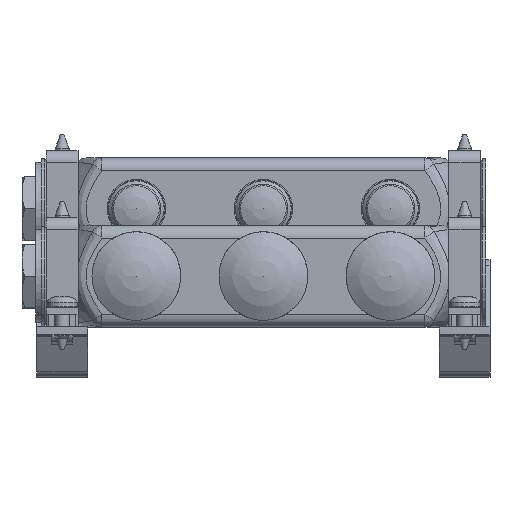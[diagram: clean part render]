
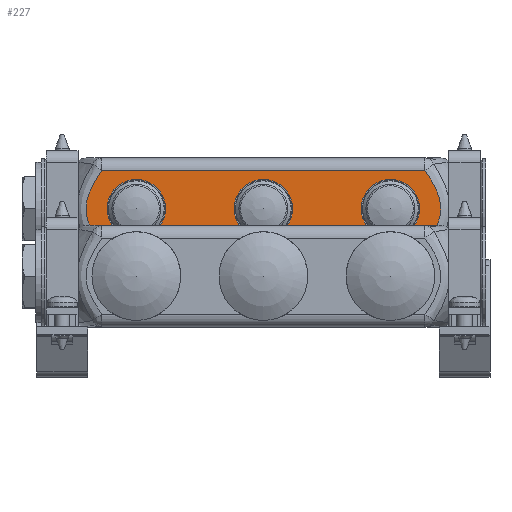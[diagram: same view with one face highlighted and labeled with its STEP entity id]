
A CAD part, top view. The second image highlights one B-rep face of the part: STEP entity #227.
In plain terms, the highlighted planar face has unit normal (0, 0, 1).
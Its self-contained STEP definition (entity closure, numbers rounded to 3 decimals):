
#227=ADVANCED_FACE('',(#3162,#3164,#3166,#3168),#3170,.T.);
#3162=FACE_BOUND('',#3163,.T.);
#3163=EDGE_LOOP('',(#11117,#11118,#11119,#11120));
#3164=FACE_BOUND('',#3165,.T.);
#3165=EDGE_LOOP('',(#11121));
#3166=FACE_BOUND('',#3167,.T.);
#3167=EDGE_LOOP('',(#11122));
#3168=FACE_BOUND('',#3169,.T.);
#3169=EDGE_LOOP('',(#11123));
#3170=PLANE('',#3171);
#3171=AXIS2_PLACEMENT_3D('',#3172,#3173,#3174);
#3172=CARTESIAN_POINT('',(1.7,86.5,-219.65));
#3173=DIRECTION('',(0.,0.,1.));
#3174=DIRECTION('',(0.,-1.,0.));
#11117=ORIENTED_EDGE('',*,*,#15145,.T.);
#11118=ORIENTED_EDGE('',*,*,#15146,.F.);
#11119=ORIENTED_EDGE('',*,*,#14875,.T.);
#11120=ORIENTED_EDGE('',*,*,#15147,.T.);
#11121=ORIENTED_EDGE('',*,*,#15148,.F.);
#11122=ORIENTED_EDGE('',*,*,#15149,.F.);
#11123=ORIENTED_EDGE('',*,*,#15150,.F.);
#14875=EDGE_CURVE('',#17443,#17444,#17445,.T.);
#15145=EDGE_CURVE('',#17885,#17886,#17887,.T.);
#15146=EDGE_CURVE('',#17443,#17886,#17888,.T.);
#15147=EDGE_CURVE('',#17444,#17885,#17889,.T.);
#15148=EDGE_CURVE('',#17890,#17890,#17891,.T.);
#15149=EDGE_CURVE('',#17892,#17892,#17893,.T.);
#15150=EDGE_CURVE('',#17894,#17894,#17895,.T.);
#17443=VERTEX_POINT('',#25038);
#17444=VERTEX_POINT('',#25039);
#17445=B_SPLINE_CURVE_WITH_KNOTS('',3,
(#25040,#25041,#25042,#25043,#25044,#25045,#25046,#25047,#25048,#25049,#25050,#25051,
#25052,#25053,#25054,#25055,#25056,#25057,#25058,#25059,#25060,#25061,#25062,#25063),
.UNSPECIFIED.,.F.,.F.,
(4,1,1,1,1,1,1,1,1,1,1,1,1,1,1,1,1,1,1,1,1,4),
(0.,0.066,0.123,0.171,0.221,0.271,
0.322,0.369,0.413,0.45,0.485,
0.521,0.557,0.597,0.64,0.687,
0.738,0.789,0.841,0.891,0.945,
1.),
.UNSPECIFIED.);
#17885=VERTEX_POINT('',#26353);
#17886=VERTEX_POINT('',#26354);
#17887=B_SPLINE_CURVE_WITH_KNOTS('',3,
(#26355,#26356,#26357,#26358,#26359,#26360,#26361,#26362,#26363,#26364,#26365,#26366,
#26367,#26368,#26369,#26370,#26371,#26372,#26373,#26374,#26375,#26376,#26377,#26378),
.UNSPECIFIED.,.F.,.F.,
(4,1,1,1,1,1,1,1,1,1,1,1,1,1,1,1,1,1,1,1,1,4),
(0.,0.066,0.123,0.171,0.221,0.271,
0.322,0.369,0.413,0.45,0.485,
0.521,0.557,0.597,0.64,0.687,
0.738,0.789,0.841,0.891,0.945,
1.),
.UNSPECIFIED.);
#17888=LINE('',#26379,#26380);
#17889=LINE('',#26382,#26383);
#17890=VERTEX_POINT('',#26385);
#17891=CIRCLE('',#26386,11.5);
#17892=VERTEX_POINT('',#26390);
#17893=CIRCLE('',#26391,11.5);
#17894=VERTEX_POINT('',#26395);
#17895=CIRCLE('',#26396,11.5);
#25038=CARTESIAN_POINT('',(25.634,81.5,-219.65));
#25039=CARTESIAN_POINT('',(25.634,51.5,-219.65));
#25040=CARTESIAN_POINT('',(25.634,81.5,-219.65));
#25041=CARTESIAN_POINT('',(25.196,80.881,-219.65));
#25042=CARTESIAN_POINT('',(24.401,79.72,-219.65));
#25043=CARTESIAN_POINT('',(23.362,78.086,-219.65));
#25044=CARTESIAN_POINT('',(22.485,76.588,-219.65));
#25045=CARTESIAN_POINT('',(21.717,75.142,-219.65));
#25046=CARTESIAN_POINT('',(21.012,73.634,-219.65));
#25047=CARTESIAN_POINT('',(20.421,72.128,-219.65));
#25048=CARTESIAN_POINT('',(19.968,70.663,-219.65));
#25049=CARTESIAN_POINT('',(19.669,69.333,-219.65));
#25050=CARTESIAN_POINT('',(19.494,68.117,-219.65));
#25051=CARTESIAN_POINT('',(19.414,66.974,-219.65));
#25052=CARTESIAN_POINT('',(19.421,65.835,-219.65));
#25053=CARTESIAN_POINT('',(19.518,64.655,-219.65));
#25054=CARTESIAN_POINT('',(19.72,63.404,-219.65));
#25055=CARTESIAN_POINT('',(20.047,62.054,-219.65));
#25056=CARTESIAN_POINT('',(20.52,60.597,-219.65));
#25057=CARTESIAN_POINT('',(21.134,59.086,-219.65));
#25058=CARTESIAN_POINT('',(21.87,57.554,-219.65));
#25059=CARTESIAN_POINT('',(22.685,56.056,-219.65));
#25060=CARTESIAN_POINT('',(23.586,54.552,-219.65));
#25061=CARTESIAN_POINT('',(24.565,53.038,-219.65));
#25062=CARTESIAN_POINT('',(25.27,52.015,-219.65));
#25063=CARTESIAN_POINT('',(25.634,51.5,-219.65));
#26353=CARTESIAN_POINT('',(152.766,51.5,-219.65));
#26354=CARTESIAN_POINT('',(152.766,81.5,-219.65));
#26355=CARTESIAN_POINT('',(152.766,51.5,-219.65));
#26356=CARTESIAN_POINT('',(153.204,52.119,-219.65));
#26357=CARTESIAN_POINT('',(153.999,53.28,-219.65));
#26358=CARTESIAN_POINT('',(155.038,54.914,-219.65));
#26359=CARTESIAN_POINT('',(155.915,56.412,-219.65));
#26360=CARTESIAN_POINT('',(156.683,57.858,-219.65));
#26361=CARTESIAN_POINT('',(157.388,59.366,-219.65));
#26362=CARTESIAN_POINT('',(157.979,60.872,-219.65));
#26363=CARTESIAN_POINT('',(158.432,62.337,-219.65));
#26364=CARTESIAN_POINT('',(158.731,63.667,-219.65));
#26365=CARTESIAN_POINT('',(158.906,64.883,-219.65));
#26366=CARTESIAN_POINT('',(158.986,66.026,-219.65));
#26367=CARTESIAN_POINT('',(158.979,67.165,-219.65));
#26368=CARTESIAN_POINT('',(158.882,68.345,-219.65));
#26369=CARTESIAN_POINT('',(158.68,69.596,-219.65));
#26370=CARTESIAN_POINT('',(158.353,70.946,-219.65));
#26371=CARTESIAN_POINT('',(157.88,72.403,-219.65));
#26372=CARTESIAN_POINT('',(157.266,73.914,-219.65));
#26373=CARTESIAN_POINT('',(156.53,75.446,-219.65));
#26374=CARTESIAN_POINT('',(155.715,76.944,-219.65));
#26375=CARTESIAN_POINT('',(154.814,78.448,-219.65));
#26376=CARTESIAN_POINT('',(153.835,79.962,-219.65));
#26377=CARTESIAN_POINT('',(153.13,80.985,-219.65));
#26378=CARTESIAN_POINT('',(152.766,81.5,-219.65));
#26379=CARTESIAN_POINT('',(25.634,81.5,-219.65));
#26380=VECTOR('',#26381,1.);
#26381=DIRECTION('',(1.,0.,0.));
#26382=CARTESIAN_POINT('',(25.634,51.5,-219.65));
#26383=VECTOR('',#26384,1.);
#26384=DIRECTION('',(1.,0.,0.));
#26385=CARTESIAN_POINT('',(100.7,66.5,-219.65));
#26386=AXIS2_PLACEMENT_3D('',#26387,#26388,#26389);
#26387=CARTESIAN_POINT('',(89.2,66.5,-219.65));
#26388=DIRECTION('',(0.,0.,1.));
#26389=DIRECTION('',(1.,0.,0.));
#26390=CARTESIAN_POINT('',(150.7,66.5,-219.65));
#26391=AXIS2_PLACEMENT_3D('',#26392,#26393,#26394);
#26392=CARTESIAN_POINT('',(139.2,66.5,-219.65));
#26393=DIRECTION('',(0.,0.,1.));
#26394=DIRECTION('',(1.,0.,0.));
#26395=CARTESIAN_POINT('',(50.7,66.5,-219.65));
#26396=AXIS2_PLACEMENT_3D('',#26397,#26398,#26399);
#26397=CARTESIAN_POINT('',(39.2,66.5,-219.65));
#26398=DIRECTION('',(0.,0.,1.));
#26399=DIRECTION('',(1.,0.,0.));
